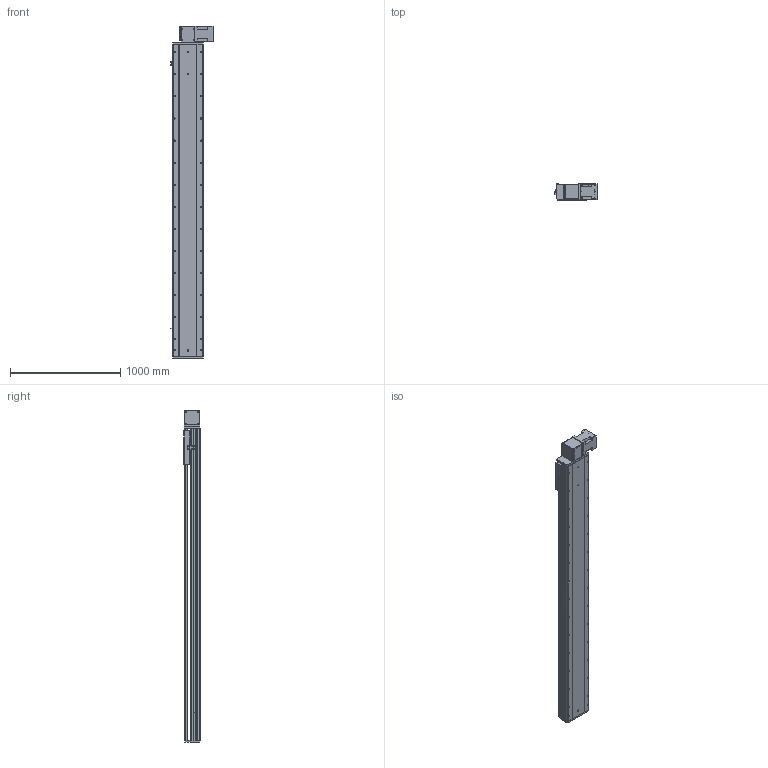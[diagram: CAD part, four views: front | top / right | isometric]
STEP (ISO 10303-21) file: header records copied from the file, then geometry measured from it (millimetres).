
FILE_DESCRIPTION (( 'STEP AP214' ), '1' );
FILE_NAME ('RTB28S-XX-2400-BL-M100-XX-C4.STEP', '2025-12-22T02:31:19', ( '' ), ( '' ), 'SwSTEP 2.0', 'SolidWorks 2018', '' );
FILE_SCHEMA (( 'AUTOMOTIVE_DESIGN' ));
Length unit declared in the file: millimetre
Products named in the file (4): RTB28S-GY-004^RTB28S-XX-XX-BL-M100-XX-C4; RTB28S-GY-008^RTB28S-XX-XX-BL-M100-XX-C4; RTB28S-XX-2400-BL-M100-XX-C4; RTB28S-GY-011^RTB28S-XX-XX-BL-M100-XX-C4
Assembly tree (3 placements, depth 2):
  RTB28S-XX-2400-BL-M100-XX-C4
    RTB28S-GY-011^RTB28S-XX-XX-BL-M100-XX-C4
    RTB28S-GY-004^RTB28S-XX-XX-BL-M100-XX-C4
    RTB28S-GY-008^RTB28S-XX-XX-BL-M100-XX-C4
Bounding box: 380.7 x 145 x 3007 mm (x, y, z)
Volume: 51659050.1 mm3; surface area: 4851501.3 mm2
Topology: 3 solids, 4 shells, 858 faces, 2298 edges, 1468 vertices
Faces by surface type: cylinder 415, plane 359, cone 80, torus 4
Entity records: 32915 total; most frequent: CARTESIAN_POINT 6052, DIRECTION 4884, ORIENTED_EDGE 4532, EDGE_CURVE 2266, AXIS2_PLACEMENT_3D 1792, VERTEX_POINT 1468, LINE 1300, VECTOR 1300
